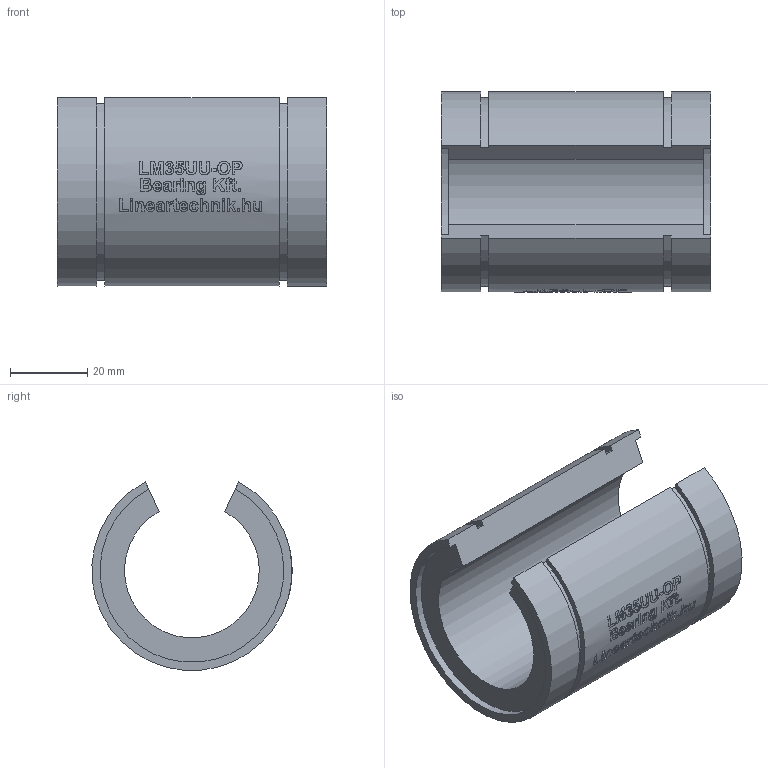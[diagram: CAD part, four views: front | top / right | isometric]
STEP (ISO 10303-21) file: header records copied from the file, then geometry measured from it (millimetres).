
FILE_DESCRIPTION(/* description */ (''),/* implementation_level */ '2;1');
FILE_NAME(/* name */ 'LM35UU-OP',/* time_stamp */ '2019-07-10T16:11:36+02:00',/* author */ ('VĂ©gh MĂˇtĂ©'),/* organization */ ('Bearing Kft'),/* preprocessor_version */ 'ST-DEVELOPER v16.7',/* originating_system */ 'DEX',/* authorisation */ $);
FILE_SCHEMA (('AUTOMOTIVE_DESIGN {1 0 10303 214 3 1 1}'));
Length unit declared in the file: millimetre
Products named in the file (1): LM35UU-OP
Bounding box: 70 x 51.96 x 48.92 mm (x, y, z)
Volume: 64906.5 mm3; surface area: 20169.5 mm2
Topology: 1 solids, 1 shells, 328 faces, 832 edges, 555 vertices
Faces by surface type: plane 168, bspline 103, cylinder 57
Entity records: 18534 total; most frequent: CARTESIAN_POINT 11138, ORIENTED_EDGE 1658, DIRECTION 1229, EDGE_CURVE 829, VERTEX_POINT 555, LINE 463, VECTOR 463, AXIS2_PLACEMENT_3D 383
